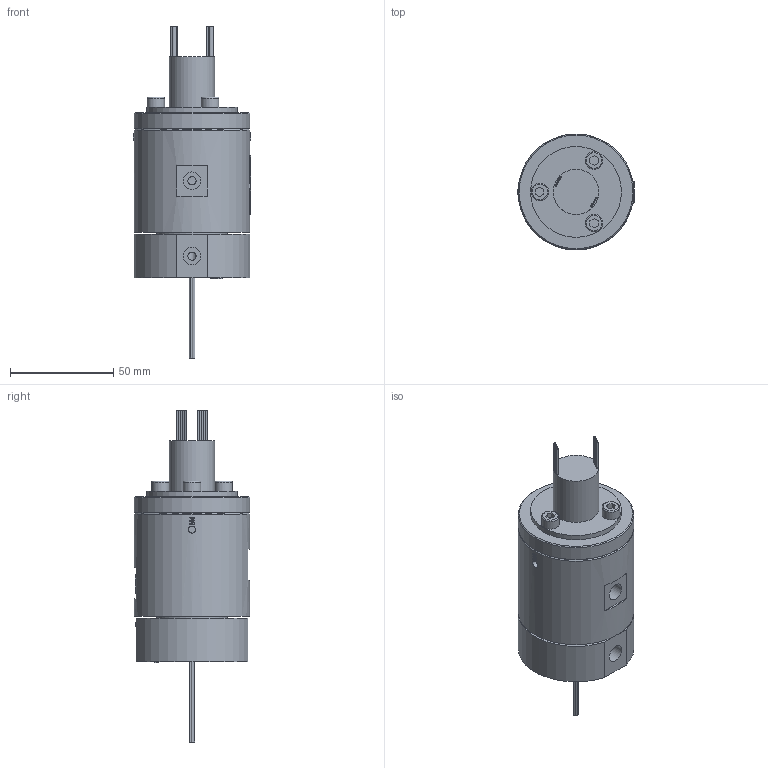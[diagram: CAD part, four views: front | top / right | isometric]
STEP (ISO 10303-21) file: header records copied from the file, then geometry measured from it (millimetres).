
FILE_DESCRIPTION(/* description */ (''),/* implementation_level */ '2;1');
FILE_NAME(/* name */ 'YQ0601-18M.stp',/* time_stamp */ '2025-02-15T15:23:06+08:00',/* author */ (''),/* organization */ (''),/* preprocessor_version */ 'ST-DEVELOPER v16.7',/* originating_system */ 'SIEMENS PLM Software NX 12.0',/* authorisation */ '');
FILE_SCHEMA (('AUTOMOTIVE_DESIGN { 1 0 10303 214 3 1 1 1 }'));
Products named in the file (1): HX0527348ECCpcew
Bounding box: 57 x 56 x 160.7 mm (x, y, z)
Volume: 202107.4 mm3; surface area: 31964.1 mm2
Topology: 1 solids, 4 shells, 1191 faces, 3195 edges, 2131 vertices
Faces by surface type: extrusion 612, plane 459, cylinder 77, bspline 33, cone 7, torus 3
Full cylindrical faces by diameter (mm): 0.8 x16, 3.4 x6, 4 x6, 4.1 x2, 4.2 x2, 5 x3, 5.5 x3, 7.8 x1, 8 x1, 8.5 x7, 22 x1, 34 x1, 44 x1, 56 x2
Entity records: 45277 total; most frequent: CARTESIAN_POINT 20131, ORIENTED_EDGE 6188, EDGE_CURVE 3094, DIRECTION 2847, B_SPLINE_CURVE_WITH_KNOTS 2838, VERTEX_POINT 2103, EDGE_LOOP 1379, VECTOR 1201
